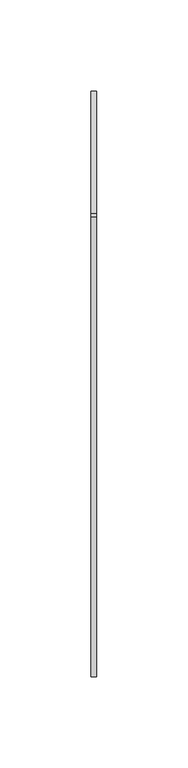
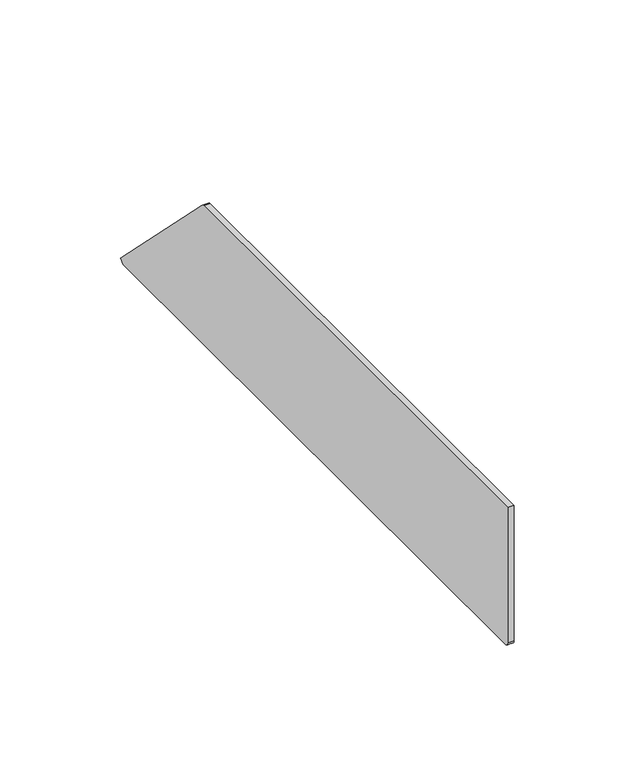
"""IFC4 building model written with IfcOpenShell, lengths in millimetres: cable carrier fitting geometry, Electrical_Installation_Hager_End-Piece : Electrical_Installation_Hager_End-Piece."""

from ifc_helpers import new_model, si_unit, point, frame, frame_2d, origin, place, context, project, spatial, polyline, circle_curve, trimmed, segment, composite_curve, outline, extrude, source, transform, mapped, element, save


def cable_carrier_fitting_54bbb1a4(model_context):
    return source(origin(), model_context, "Body", "SweptSolid", [
        extrude(outline(composite_curve([segment(polyline([(-125.0, -33.0), (-125.0, 35.5), (126.7124549, 35.5)]), True, "CONTINUOUS"), segment(trimmed(circle_curve(frame_2d((125.5004738, 31.6648514)), 4.0220969), [point((126.7124549, 35.5))], [point((128.5142136, 34.3284271))], False, "CARTESIAN"), True, "CONTINUOUS"), segment(polyline([(128.5142136, 34.3284271), (195.7213203, -32.8786797), (193.6, -35.0), (-123.0, -35.0)]), True, "CONTINUOUS"), segment(trimmed(circle_curve(frame_2d((-123.0, -33.0)), 2.0), [point((-123.0, -35.0))], [point((-125.0, -33.0))], False, "CARTESIAN"), True, "CONTINUOUS")], self_intersect=False)), frame((0.0, 0.0, 0.0), z_axis=(1.0, 0.0, 0.0), x_axis=(0.0, 1.0, 0.0)), (0.0, 0.0, 1.0), 3.0),
    ])


if __name__ == "__main__":
    model = new_model("IFC4")
    model_context = context("Model", 3, world=origin())
    ifc_project = project(units=[si_unit("LENGTHUNIT", "METRE", prefix="MILLI")], contexts=[model_context])
    site = spatial("IfcSite", under=ifc_project)
    building = spatial("IfcBuilding", under=site)
    placement = place(None, origin())
    cable_carrier_fitting_shape = cable_carrier_fitting_54bbb1a4(model_context)
    element("IfcCableCarrierFitting", 1, ObjectType="Electrical_Installation_Hager_End-Piece : Electrical_Installation_Hager_End-Piece", at=placement, inside=building, context=model_context, shape_type="MappedRepresentation", body=[
        mapped(cable_carrier_fitting_shape, transform((0.0, 0.0, 0.0), x_axis=(1.0, 0.0, 0.0), y_axis=(0.0, 1.0, 0.0), z_axis=(0.0, 0.0, 1.0))),
    ])
    save(model, "model.ifc")
